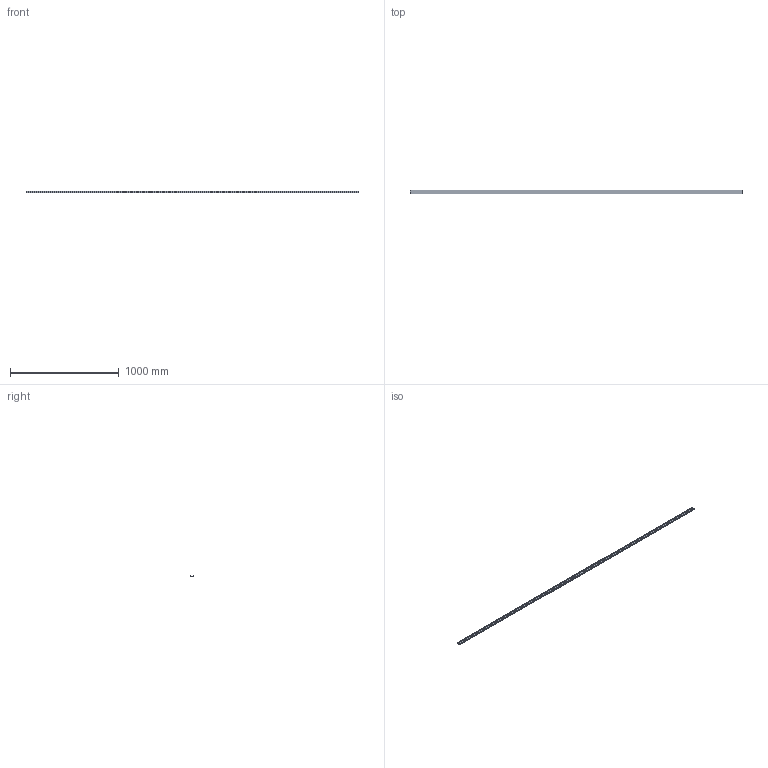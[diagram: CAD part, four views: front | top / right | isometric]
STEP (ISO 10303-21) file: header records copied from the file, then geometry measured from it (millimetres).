
FILE_DESCRIPTION(/* description */ (''),/* implementation_level */ '2;1');
FILE_NAME(/* name */ 'M06I.stp',/* time_stamp */ '2025-02-27T16:07:50-05:00',/* author */ ('samuel.gauthier'),/* organization */ (''),/* preprocessor_version */ 'ST-DEVELOPER v20',/* originating_system */ 'Autodesk Inventor 2025',/* authorisation */ '');
FILE_SCHEMA (('AUTOMOTIVE_DESIGN { 1 0 10303 214 3 1 1 }'));
Length unit declared in the file: inch
Products named in the file (1): Moulure de Finition SPC1.5
Bounding box: 3048 x 28.57 x 12.61 mm (x, y, z)
Volume: 101623.9 mm3; surface area: 400589.4 mm2
Topology: 1 solids, 1 shells, 22 faces, 60 edges, 40 vertices
Faces by surface type: plane 14, cylinder 8
Entity records: 745 total; most frequent: CARTESIAN_POINT 123, DIRECTION 122, ORIENTED_EDGE 120, EDGE_CURVE 60, LINE 44, VECTOR 44, VERTEX_POINT 40, AXIS2_PLACEMENT_3D 39
